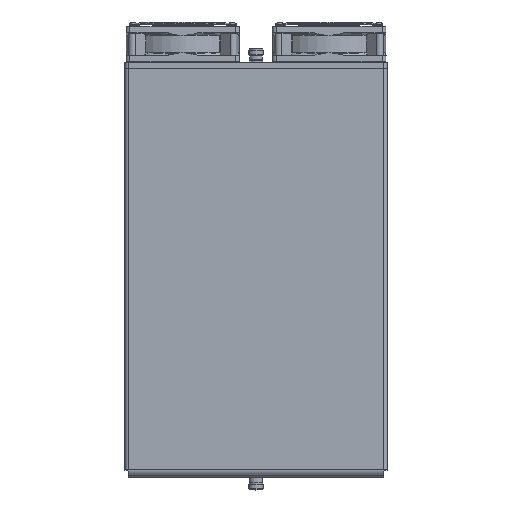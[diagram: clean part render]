
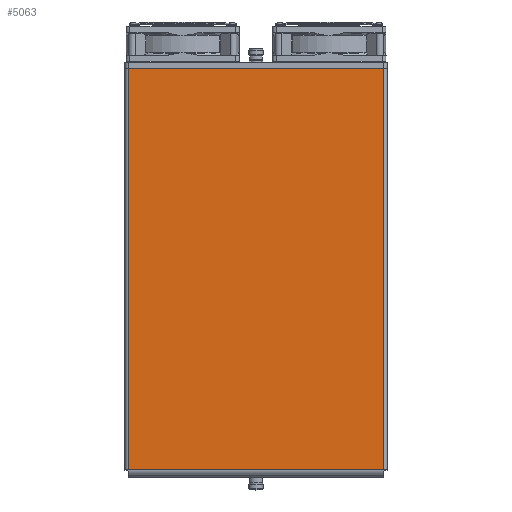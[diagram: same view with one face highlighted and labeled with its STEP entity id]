
A CAD part, top view. The second image highlights one B-rep face of the part: STEP entity #5063.
In plain terms, the highlighted planar face has unit normal (0, 0, 1).
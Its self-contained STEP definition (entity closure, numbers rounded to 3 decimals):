
#5063=ADVANCED_FACE('',(#21006),#21008,.T.);
#21006=FACE_BOUND('',#21007,.T.);
#21007=EDGE_LOOP('',(#38480,#38481,#38482,#38483));
#21008=PLANE('',#21009);
#21009=AXIS2_PLACEMENT_3D('',#21010,#21011,#21012);
#21010=CARTESIAN_POINT('',(0.,0.,121.5));
#21011=DIRECTION('',(0.,0.,1.));
#21012=DIRECTION('',(0.,-1.,0.));
#38480=ORIENTED_EDGE('',*,*,#46884,.T.);
#38481=ORIENTED_EDGE('',*,*,#46895,.T.);
#38482=ORIENTED_EDGE('',*,*,#46896,.T.);
#38483=ORIENTED_EDGE('',*,*,#46897,.T.);
#46884=EDGE_CURVE('',#51984,#51982,#51985,.T.);
#46895=EDGE_CURVE('',#51982,#52001,#52002,.T.);
#46896=EDGE_CURVE('',#52001,#52003,#52004,.T.);
#46897=EDGE_CURVE('',#52003,#51984,#52005,.T.);
#51982=VERTEX_POINT('',#61331);
#51984=VERTEX_POINT('',#61336);
#51985=LINE('',#61337,#61338);
#52001=VERTEX_POINT('',#61377);
#52002=LINE('',#61378,#61379);
#52003=VERTEX_POINT('',#61381);
#52004=LINE('',#61382,#61383);
#52005=LINE('',#61385,#61386);
#61331=CARTESIAN_POINT('',(135.,212.5,121.5));
#61336=CARTESIAN_POINT('',(135.,-212.5,121.5));
#61337=CARTESIAN_POINT('',(135.,-212.5,121.5));
#61338=VECTOR('',#61339,1.);
#61339=DIRECTION('',(0.,1.,0.));
#61377=CARTESIAN_POINT('',(-135.,212.5,121.5));
#61378=CARTESIAN_POINT('',(135.,212.5,121.5));
#61379=VECTOR('',#61380,1.);
#61380=DIRECTION('',(-1.,0.,0.));
#61381=CARTESIAN_POINT('',(-135.,-212.5,121.5));
#61382=CARTESIAN_POINT('',(-135.,212.5,121.5));
#61383=VECTOR('',#61384,1.);
#61384=DIRECTION('',(0.,-1.,0.));
#61385=CARTESIAN_POINT('',(-135.,-212.5,121.5));
#61386=VECTOR('',#61387,1.);
#61387=DIRECTION('',(1.,0.,0.));
